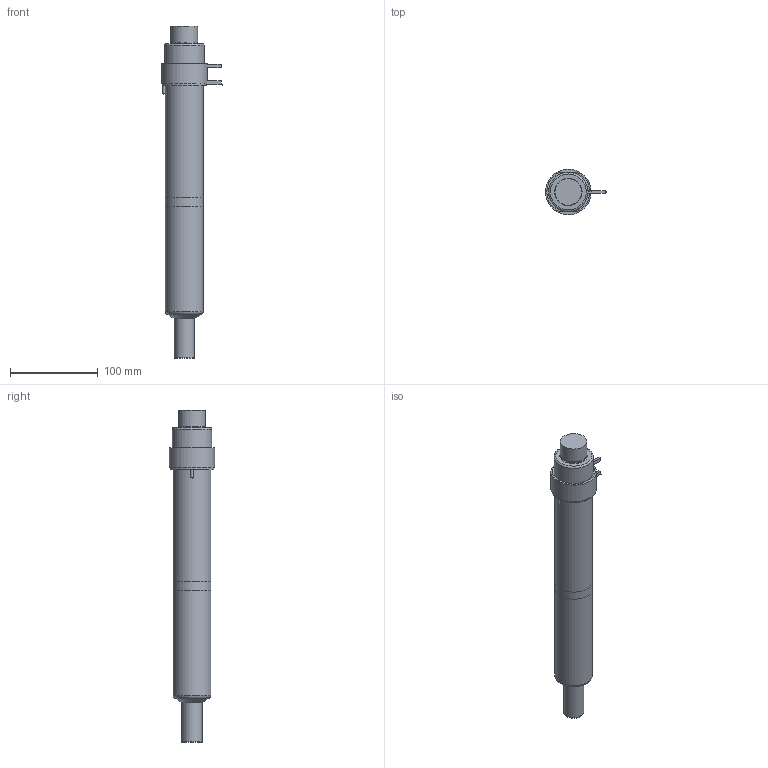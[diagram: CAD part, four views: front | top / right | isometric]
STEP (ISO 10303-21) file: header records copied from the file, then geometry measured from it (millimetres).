
FILE_DESCRIPTION(/* description */ (''),/* implementation_level */ '2;1');
FILE_NAME(/* name */ 'SXYCN27275N3U_200C_a',/* time_stamp */ '2016-03-04T14:19:12+13:00',/* author */ (''),/* organization */ (''),/* preprocessor_version */ 'ST-DEVELOPER v9',/* originating_system */ 'UGS - NX 4.0',/* authorisation */ '');
FILE_SCHEMA (('CONFIG_CONTROL_DESIGN'));
Length unit declared in the file: millimetre
Products named in the file (1): mattD74Dhewv
Bounding box: 69.6 x 52 x 379.03 mm (x, y, z)
Volume: 903001.5 mm3; surface area: 105325.7 mm2
Topology: 7 solids, 7 shells, 91 faces, 176 edges, 113 vertices
Faces by surface type: plane 43, cylinder 29, torus 9, cone 8, bspline 1, sphere 1
Full cylindrical faces by diameter (mm): 1 x3, 2.5 x3, 12 x2, 22.61 x1, 22.995 x2, 27.5 x1, 30 x1, 30.4 x1, 38.1 x2, 43 x2, 45 x1, 50 x1, 52 x1
Entity records: 2357 total; most frequent: CARTESIAN_POINT 540, DIRECTION 380, ORIENTED_EDGE 276, AXIS2_PLACEMENT_3D 165, EDGE_LOOP 138, EDGE_CURVE 138, VERTEX_POINT 109, ADVANCED_FACE 91
